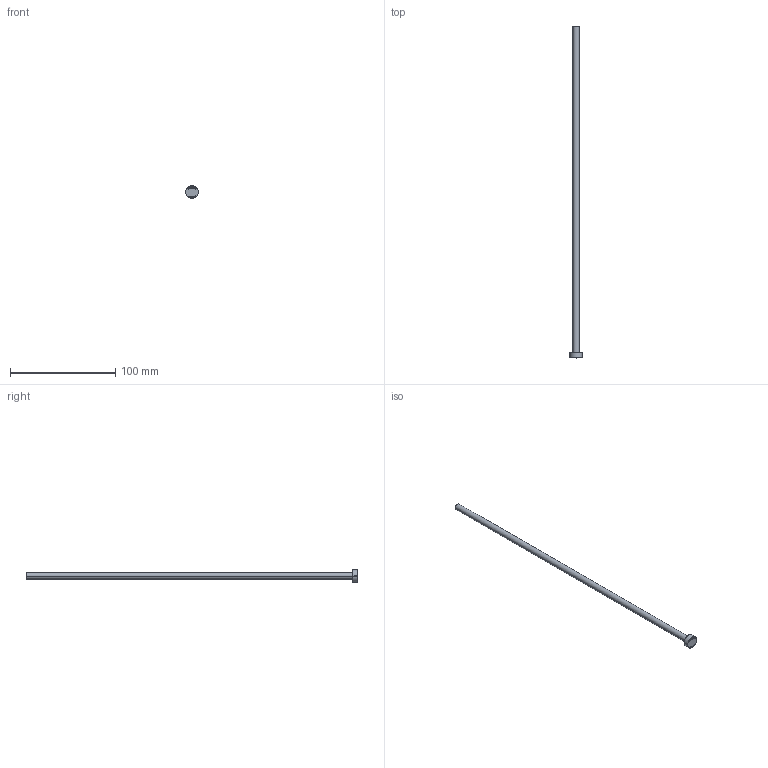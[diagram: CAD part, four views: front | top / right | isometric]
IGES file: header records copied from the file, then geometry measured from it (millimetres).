
Start section: SolidWorks IGES file using analytic representation for surfaces
Global section: file name: C:\Users\User\Downloads\Matripeça 31-08 tar\PB - PINO EXTRATOR TIPO _B_ (CATÁLOGO)\PB06,0\PB06,0315.IGS; native system: SolidWorks 2024; preprocessor: SolidWorks 2024; author: User; date: 260901.144133; units: millimetre
Bounding box: 12 x 315 x 12 mm (x, y, z)
Surface area: 6263.5 mm2 (no closed solid volume)
Topology: 0 solids, 0 shells, 406 faces, 3802 edges, 3802 vertices
Faces by surface type: bspline 392, revolution 14
